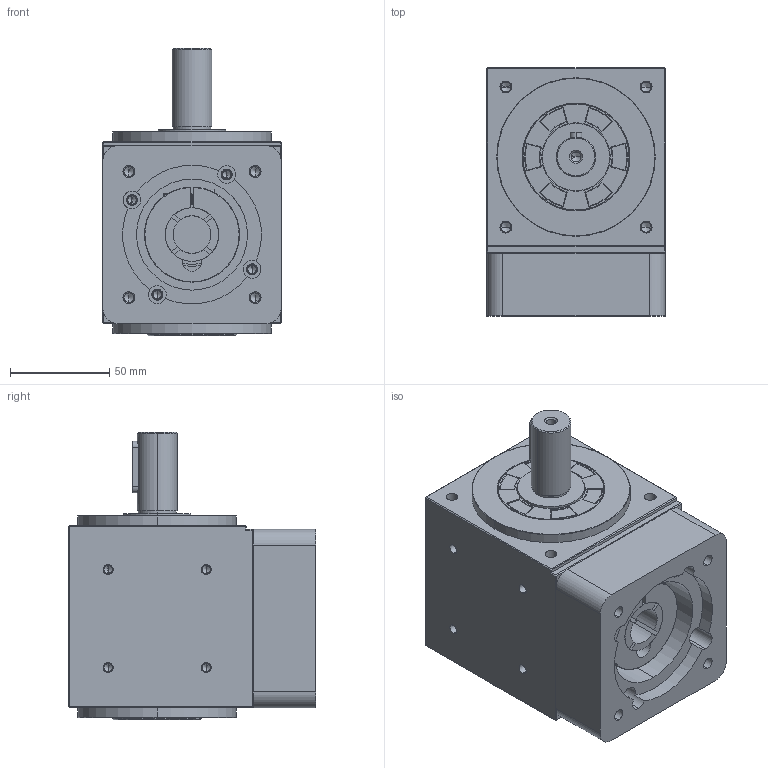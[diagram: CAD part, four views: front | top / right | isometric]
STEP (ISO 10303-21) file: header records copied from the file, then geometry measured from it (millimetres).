
FILE_DESCRIPTION (( 'STEP AP203' ), '1' );
FILE_NAME ('RS90-2(19-70-90-M6).STEP', '2022-03-11T13:11:03', ( '' ), ( '' ), 'SwSTEP 2.0', 'SolidWorks 2016', '' );
FILE_SCHEMA (( 'CONFIG_CONTROL_DESIGN' ));
Length unit declared in the file: millimetre
Products named in the file (8): R90; RS90-(20x41-6x25); R90-2(70-90-M6); SN90-48x27x15-M6; R90-2-(19); RS90-2(19-70-90-M6); R90-45x75x7; R90-34x54x8
Assembly tree (7 placements, depth 2):
  RS90-2(19-70-90-M6)
    R90
    RS90-(20x41-6x25)
    R90-2(70-90-M6)
    R90-34x54x8
    R90-45x75x7
    R90-2-(19)
    SN90-48x27x15-M6
Bounding box: 90 x 125.13 x 145 mm (x, y, z)
Volume: 828782.4 mm3; surface area: 161485.4 mm2
Topology: 8 solids, 8 shells, 665 faces, 1603 edges, 956 vertices
Faces by surface type: cylinder 329, cone 134, plane 127, torus 48, bspline 27
Entity records: 36388 total; most frequent: CARTESIAN_POINT 20837, DIRECTION 3094, ORIENTED_EDGE 3086, EDGE_CURVE 1543, AXIS2_PLACEMENT_3D 1220, VERTEX_POINT 956, EDGE_LOOP 751, FACE_OUTER_BOUND 665
